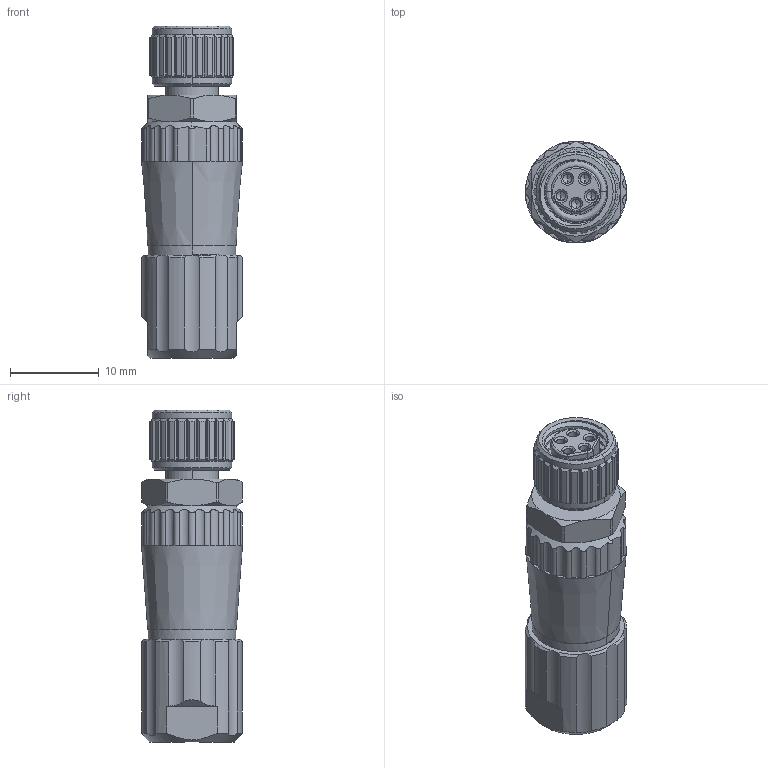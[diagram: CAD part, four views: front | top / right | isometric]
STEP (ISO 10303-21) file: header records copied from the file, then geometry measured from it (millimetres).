
FILE_DESCRIPTION (( 'STEP AP203' ), '1' );
FILE_NAME ('854-B05-203RKT4.STEP', '2024-08-30T13:56:16', ( '' ), ( '' ), 'SwSTEP 2.0', 'SolidWorks 2020', '' );
FILE_SCHEMA (( 'CONFIG_CONTROL_DESIGN' ));
Length unit declared in the file: millimetre
Products named in the file (1): 854-B05-203RKT4
Bounding box: 11.5 x 11.4 x 37.5 mm (x, y, z)
Volume: 2258.8 mm3; surface area: 3991.8 mm2
Topology: 1 solids, 1 shells, 787 faces, 2335 edges, 1507 vertices
Faces by surface type: cylinder 279, plane 219, cone 167, bspline 122
Entity records: 52990 total; most frequent: CARTESIAN_POINT 33994, ORIENTED_EDGE 4590, DIRECTION 3186, EDGE_CURVE 2295, VERTEX_POINT 1507, AXIS2_PLACEMENT_3D 1290, B_SPLINE_CURVE_WITH_KNOTS 1040, EDGE_LOOP 824
